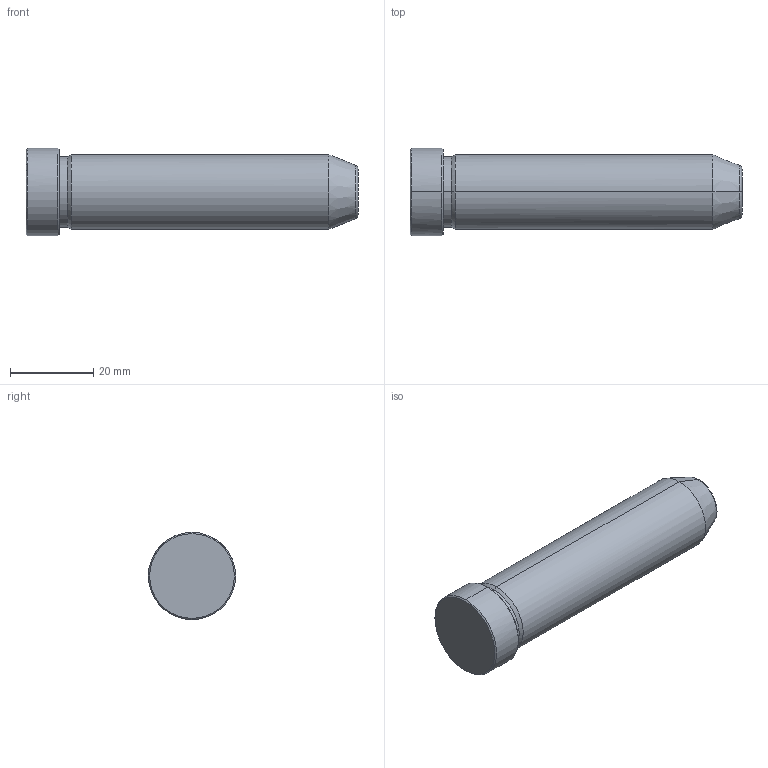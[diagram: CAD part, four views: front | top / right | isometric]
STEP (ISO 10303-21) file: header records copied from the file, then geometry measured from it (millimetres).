
FILE_DESCRIPTION(('CATIA V5 STEP Exchange'),'2;1');
FILE_NAME('C:\Users\Utente\Desktop\IO LAVORO\3D X SITO CF\X SITO\PLASTICA\549\549-18X80.stp','2021-12-11T09:43:47+00:00',('none'),('none'),'CATIA Version 5 Release 20 GA (IN-10)','CATIA V5 STEP AP203','none');
FILE_SCHEMA(('CONFIG_CONTROL_DESIGN'));
Length unit declared in the file: millimetre
Products named in the file (1): 549-18X80
Bounding box: 80 x 21 x 21 mm (x, y, z)
Volume: 20515.6 mm3; surface area: 5118.5 mm2
Topology: 1 solids, 1 shells, 19 faces, 56 edges, 40 vertices
Faces by surface type: cone 8, cylinder 6, plane 3, torus 2
Entity records: 736 total; most frequent: CARTESIAN_POINT 192, ORIENTED_EDGE 112, DIRECTION 86, EDGE_CURVE 56, AXIS2_PLACEMENT_3D 54, VERTEX_POINT 40, CIRCLE 34, EDGE_LOOP 20
